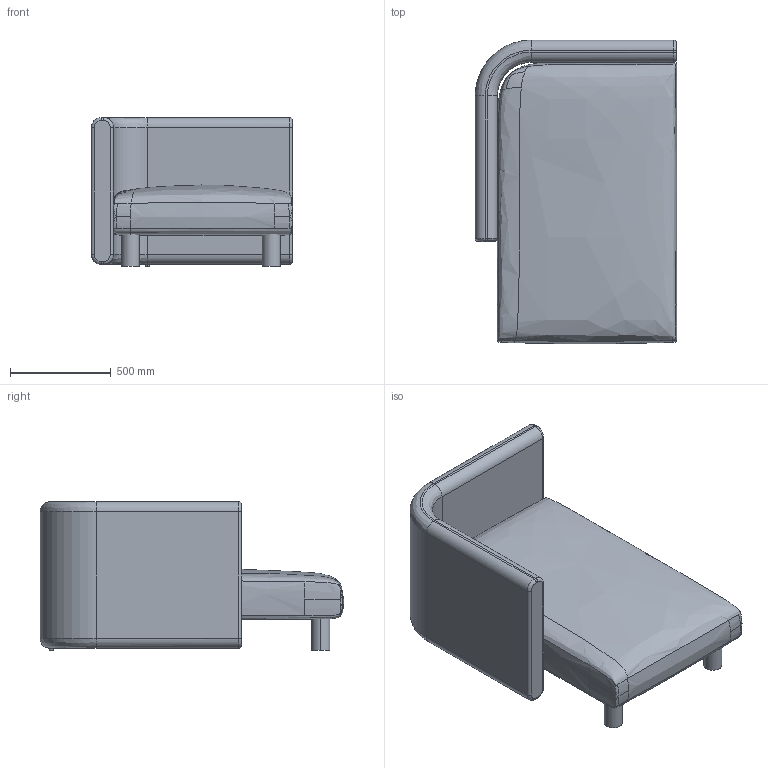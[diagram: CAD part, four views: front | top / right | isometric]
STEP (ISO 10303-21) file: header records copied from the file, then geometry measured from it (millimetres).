
FILE_DESCRIPTION(/* description */ (''),/* implementation_level */ '2;1');
FILE_NAME(/* name */ 'Dase chaise longue left_3D',/* time_stamp */ '2024-05-13T09:51:07+02:00',/* author */ (''),/* organization */ (''),/* preprocessor_version */ 'ST-DEVELOPER v16.5',/* originating_system */ 'Rhino 7.36',/* authorisation */ '');
FILE_SCHEMA (('CONFIG_CONTROL_DESIGN'));
Length unit declared in the file: millimetre
Products named in the file (1): Document
Bounding box: 1001.43 x 1509.04 x 740 mm (x, y, z)
Volume: 422237377 mm3; surface area: 6360750.1 mm2
Topology: 6 solids, 6 shells, 81 faces, 177 edges, 108 vertices
Faces by surface type: bspline 39, cylinder 26, plane 16
Entity records: 5448 total; most frequent: CARTESIAN_POINT 4234, ORIENTED_EDGE 354, EDGE_CURVE 177, VERTEX_POINT 108, ADVANCED_FACE 81, FACE_OUTER_BOUND 81, EDGE_LOOP 81, B_SPLINE_CURVE_WITH_KNOTS 77
